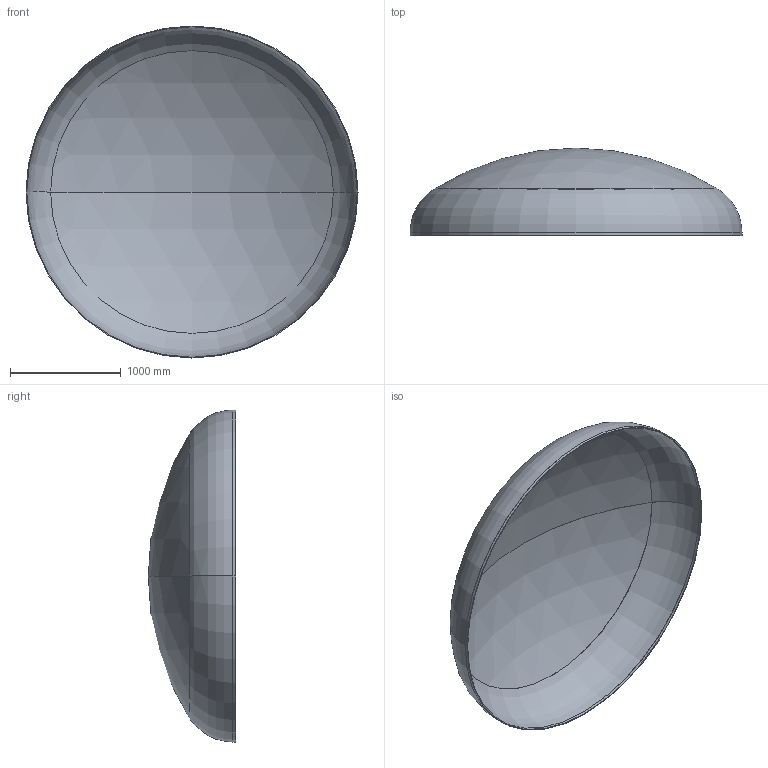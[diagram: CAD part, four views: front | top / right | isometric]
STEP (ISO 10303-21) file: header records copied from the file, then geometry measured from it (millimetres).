
FILE_DESCRIPTION (( 'STEP AP203' ), '1' );
FILE_NAME ('DIN 28013 Korbbogenform_-_Boden DIN 28013 - 3000 x 25 - I - s=7.step', '2016-07-01T17:26:36', ( '' ), ( '' ), 'SwSTEP 2.0', 'SolidWorks 2013', '' );
FILE_SCHEMA (( 'CONFIG_CONTROL_DESIGN' ));
Length unit declared in the file: millimetre
Products named in the file (1): DIN 28013 Korbbogenform_-_Boden DIN 28013 - 3000 x 25 - I - s=7
Bounding box: 3000 x 789.89 x 3000 mm (x, y, z)
Volume: 69911952.4 mm3; surface area: 20040757.4 mm2
Topology: 1 solids, 1 shells, 13 faces, 24 edges, 14 vertices
Faces by surface type: torus 4, cylinder 4, sphere 4, plane 1
Entity records: 407 total; most frequent: DIRECTION 72, CARTESIAN_POINT 52, ORIENTED_EDGE 48, AXIS2_PLACEMENT_3D 34, EDGE_CURVE 24, CIRCLE 20, VERTEX_POINT 14, EDGE_LOOP 14
